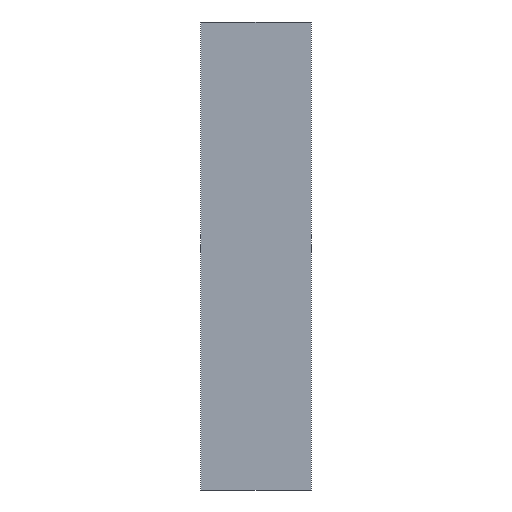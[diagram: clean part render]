
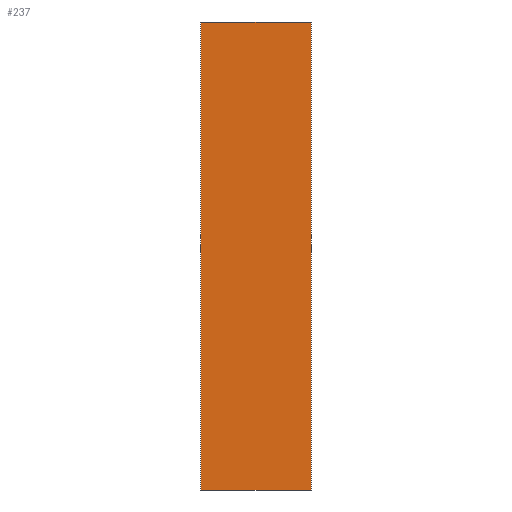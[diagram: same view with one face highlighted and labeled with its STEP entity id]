
A CAD part, front view. The second image highlights one B-rep face of the part: STEP entity #237.
In plain terms, the highlighted planar face has unit normal (0, -1, 0).
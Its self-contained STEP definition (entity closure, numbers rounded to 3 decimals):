
#21 = EDGE_CURVE('',#22,#24,#26,.T.);
#22 = VERTEX_POINT('',#23);
#23 = CARTESIAN_POINT('',(-647.,-184.913,-3.));
#24 = VERTEX_POINT('',#25);
#25 = CARTESIAN_POINT('',(-647.,-184.913,14.));
#26 = SURFACE_CURVE('',#27,(#31,#43),.PCURVE_S1.);
#27 = LINE('',#28,#29);
#28 = CARTESIAN_POINT('',(-647.,-184.913,-3.));
#29 = VECTOR('',#30,1.);
#30 = DIRECTION('',(0.,0.,1.));
#31 = PCURVE('',#32,#37);
#32 = PLANE('',#33);
#33 = AXIS2_PLACEMENT_3D('',#34,#35,#36);
#34 = CARTESIAN_POINT('',(-647.,-184.913,-3.));
#35 = DIRECTION('',(1.,0.,-0.));
#36 = DIRECTION('',(0.,0.,1.));
#37 = DEFINITIONAL_REPRESENTATION('',(#38),#42);
#38 = LINE('',#39,#40);
#39 = CARTESIAN_POINT('',(0.,0.));
#40 = VECTOR('',#41,1.);
#41 = DIRECTION('',(1.,0.));
#42 = ( GEOMETRIC_REPRESENTATION_CONTEXT(2) 
PARAMETRIC_REPRESENTATION_CONTEXT() REPRESENTATION_CONTEXT('2D SPACE',''
  ) );
#43 = PCURVE('',#44,#49);
#44 = PLANE('',#45);
#45 = AXIS2_PLACEMENT_3D('',#46,#47,#48);
#46 = CARTESIAN_POINT('',(-647.,-184.913,-3.));
#47 = DIRECTION('',(-0.,1.,0.));
#48 = DIRECTION('',(0.,0.,1.));
#49 = DEFINITIONAL_REPRESENTATION('',(#50),#54);
#50 = LINE('',#51,#52);
#51 = CARTESIAN_POINT('',(0.,0.));
#52 = VECTOR('',#53,1.);
#53 = DIRECTION('',(1.,0.));
#54 = ( GEOMETRIC_REPRESENTATION_CONTEXT(2) 
PARAMETRIC_REPRESENTATION_CONTEXT() REPRESENTATION_CONTEXT('2D SPACE',''
  ) );
#72 = PLANE('',#73);
#73 = AXIS2_PLACEMENT_3D('',#74,#75,#76);
#74 = CARTESIAN_POINT('',(-647.,-184.913,-3.));
#75 = DIRECTION('',(0.,0.,1.));
#76 = DIRECTION('',(1.,0.,-0.));
#126 = PLANE('',#127);
#127 = AXIS2_PLACEMENT_3D('',#128,#129,#130);
#128 = CARTESIAN_POINT('',(-647.,-184.913,14.));
#129 = DIRECTION('',(0.,0.,1.));
#130 = DIRECTION('',(1.,0.,-0.));
#141 = EDGE_CURVE('',#142,#144,#146,.T.);
#142 = VERTEX_POINT('',#143);
#143 = CARTESIAN_POINT('',(-643.,-184.913,-3.));
#144 = VERTEX_POINT('',#145);
#145 = CARTESIAN_POINT('',(-643.,-184.913,14.));
#146 = SURFACE_CURVE('',#147,(#151,#163),.PCURVE_S1.);
#147 = LINE('',#148,#149);
#148 = CARTESIAN_POINT('',(-643.,-184.913,-3.));
#149 = VECTOR('',#150,1.);
#150 = DIRECTION('',(0.,0.,1.));
#151 = PCURVE('',#152,#157);
#152 = PLANE('',#153);
#153 = AXIS2_PLACEMENT_3D('',#154,#155,#156);
#154 = CARTESIAN_POINT('',(-643.,-184.913,-3.));
#155 = DIRECTION('',(1.,0.,-0.));
#156 = DIRECTION('',(0.,0.,1.));
#157 = DEFINITIONAL_REPRESENTATION('',(#158),#162);
#158 = LINE('',#159,#160);
#159 = CARTESIAN_POINT('',(0.,0.));
#160 = VECTOR('',#161,1.);
#161 = DIRECTION('',(1.,0.));
#162 = ( GEOMETRIC_REPRESENTATION_CONTEXT(2) 
PARAMETRIC_REPRESENTATION_CONTEXT() REPRESENTATION_CONTEXT('2D SPACE',''
  ) );
#163 = PCURVE('',#44,#164);
#164 = DEFINITIONAL_REPRESENTATION('',(#165),#169);
#165 = LINE('',#166,#167);
#166 = CARTESIAN_POINT('',(0.,4.));
#167 = VECTOR('',#168,1.);
#168 = DIRECTION('',(1.,0.));
#169 = ( GEOMETRIC_REPRESENTATION_CONTEXT(2) 
PARAMETRIC_REPRESENTATION_CONTEXT() REPRESENTATION_CONTEXT('2D SPACE',''
  ) );
#237 = ADVANCED_FACE('',(#238),#44,.F.);
#238 = FACE_BOUND('',#239,.F.);
#239 = EDGE_LOOP('',(#240,#261,#262,#283));
#240 = ORIENTED_EDGE('',*,*,#241,.F.);
#241 = EDGE_CURVE('',#22,#142,#242,.T.);
#242 = SURFACE_CURVE('',#243,(#247,#254),.PCURVE_S1.);
#243 = LINE('',#244,#245);
#244 = CARTESIAN_POINT('',(-647.,-184.913,-3.));
#245 = VECTOR('',#246,1.);
#246 = DIRECTION('',(1.,0.,-0.));
#247 = PCURVE('',#44,#248);
#248 = DEFINITIONAL_REPRESENTATION('',(#249),#253);
#249 = LINE('',#250,#251);
#250 = CARTESIAN_POINT('',(0.,0.));
#251 = VECTOR('',#252,1.);
#252 = DIRECTION('',(0.,1.));
#253 = ( GEOMETRIC_REPRESENTATION_CONTEXT(2) 
PARAMETRIC_REPRESENTATION_CONTEXT() REPRESENTATION_CONTEXT('2D SPACE',''
  ) );
#254 = PCURVE('',#72,#255);
#255 = DEFINITIONAL_REPRESENTATION('',(#256),#260);
#256 = LINE('',#257,#258);
#257 = CARTESIAN_POINT('',(0.,0.));
#258 = VECTOR('',#259,1.);
#259 = DIRECTION('',(1.,0.));
#260 = ( GEOMETRIC_REPRESENTATION_CONTEXT(2) 
PARAMETRIC_REPRESENTATION_CONTEXT() REPRESENTATION_CONTEXT('2D SPACE',''
  ) );
#261 = ORIENTED_EDGE('',*,*,#21,.T.);
#262 = ORIENTED_EDGE('',*,*,#263,.T.);
#263 = EDGE_CURVE('',#24,#144,#264,.T.);
#264 = SURFACE_CURVE('',#265,(#269,#276),.PCURVE_S1.);
#265 = LINE('',#266,#267);
#266 = CARTESIAN_POINT('',(-647.,-184.913,14.));
#267 = VECTOR('',#268,1.);
#268 = DIRECTION('',(1.,0.,-0.));
#269 = PCURVE('',#44,#270);
#270 = DEFINITIONAL_REPRESENTATION('',(#271),#275);
#271 = LINE('',#272,#273);
#272 = CARTESIAN_POINT('',(17.,0.));
#273 = VECTOR('',#274,1.);
#274 = DIRECTION('',(0.,1.));
#275 = ( GEOMETRIC_REPRESENTATION_CONTEXT(2) 
PARAMETRIC_REPRESENTATION_CONTEXT() REPRESENTATION_CONTEXT('2D SPACE',''
  ) );
#276 = PCURVE('',#126,#277);
#277 = DEFINITIONAL_REPRESENTATION('',(#278),#282);
#278 = LINE('',#279,#280);
#279 = CARTESIAN_POINT('',(0.,0.));
#280 = VECTOR('',#281,1.);
#281 = DIRECTION('',(1.,0.));
#282 = ( GEOMETRIC_REPRESENTATION_CONTEXT(2) 
PARAMETRIC_REPRESENTATION_CONTEXT() REPRESENTATION_CONTEXT('2D SPACE',''
  ) );
#283 = ORIENTED_EDGE('',*,*,#141,.F.);
